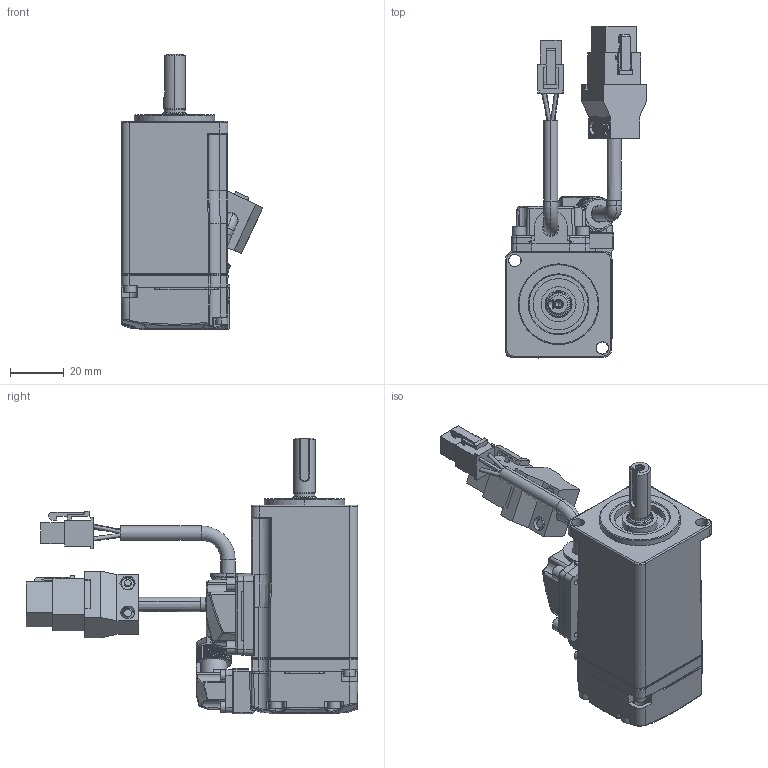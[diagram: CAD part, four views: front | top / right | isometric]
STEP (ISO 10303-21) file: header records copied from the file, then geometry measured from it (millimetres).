
FILE_DESCRIPTION((''),'2;1');
FILE_NAME('ECM-B3M-C20401RS-2','2019-05-07T',('MIO.CHEN'),(''),'CREO PARAMETRIC BY PTC INC, 2015080','CREO PARAMETRIC BY PTC INC, 2015080','');
FILE_SCHEMA(('CONFIG_CONTROL_DESIGN'));
Products named in the file (1): ECM-B3M-C20401RS-2
Bounding box: 52.71 x 123.38 x 102.6 mm (x, y, z)
Volume: 145339 mm3; surface area: 30010.6 mm2
Topology: 1 solids, 5 shells, 1268 faces, 3213 edges, 1988 vertices
Faces by surface type: plane 618, cylinder 274, cone 153, bspline 148, torus 52, sphere 23
Entity records: 47173 total; most frequent: CARTESIAN_POINT 18133, ORIENTED_EDGE 6402, DIRECTION 5531, EDGE_CURVE 3201, VERTEX_POINT 1988, AXIS2_PLACEMENT_3D 1960, VECTOR 1611, LINE 1611
